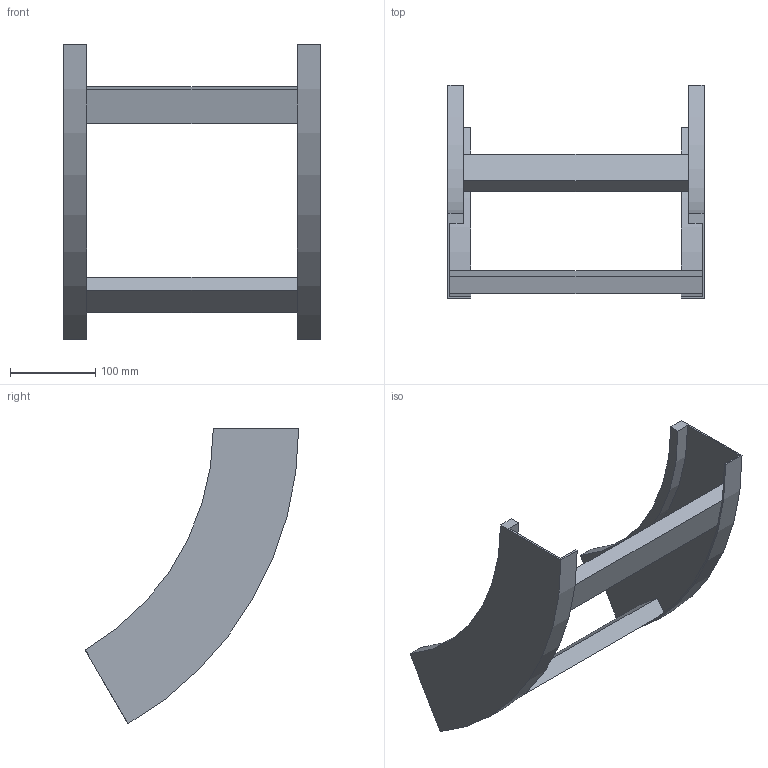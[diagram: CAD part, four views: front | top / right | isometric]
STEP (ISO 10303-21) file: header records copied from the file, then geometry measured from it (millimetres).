
FILE_DESCRIPTION (( 'STEP AP214' ), '1' );
FILE_NAME ('B2X40B3D300XX.step', '2025-03-20T10:12:51', ( '' ), ( '' ), 'SwSTEP 2.0', 'SolidWorks 2023', '' );
FILE_SCHEMA (( 'AUTOMOTIVE_DESIGN' ));
Length unit declared in the file: millimetre
Products named in the file (3): B2X40B3D300XX; B2_LONGH.SALITA_60°_H100_R300; TRAVERSINO_300
Assembly tree (4 placements, depth 2):
  B2X40B3D300XX
    B2_LONGH.SALITA_60°_H100_R300  x2
    TRAVERSINO_300  x2
Bounding box: 300 x 250 x 346.41 mm (x, y, z)
Volume: 790960.7 mm3; surface area: 288471.3 mm2
Topology: 4 solids, 4 shells, 32 faces, 72 edges, 48 vertices
Faces by surface type: plane 24, cylinder 8
Entity records: 552 total; most frequent: DIRECTION 90, CARTESIAN_POINT 83, ORIENTED_EDGE 72, EDGE_CURVE 36, AXIS2_PLACEMENT_3D 31, VECTOR 28, LINE 28, VERTEX_POINT 24
